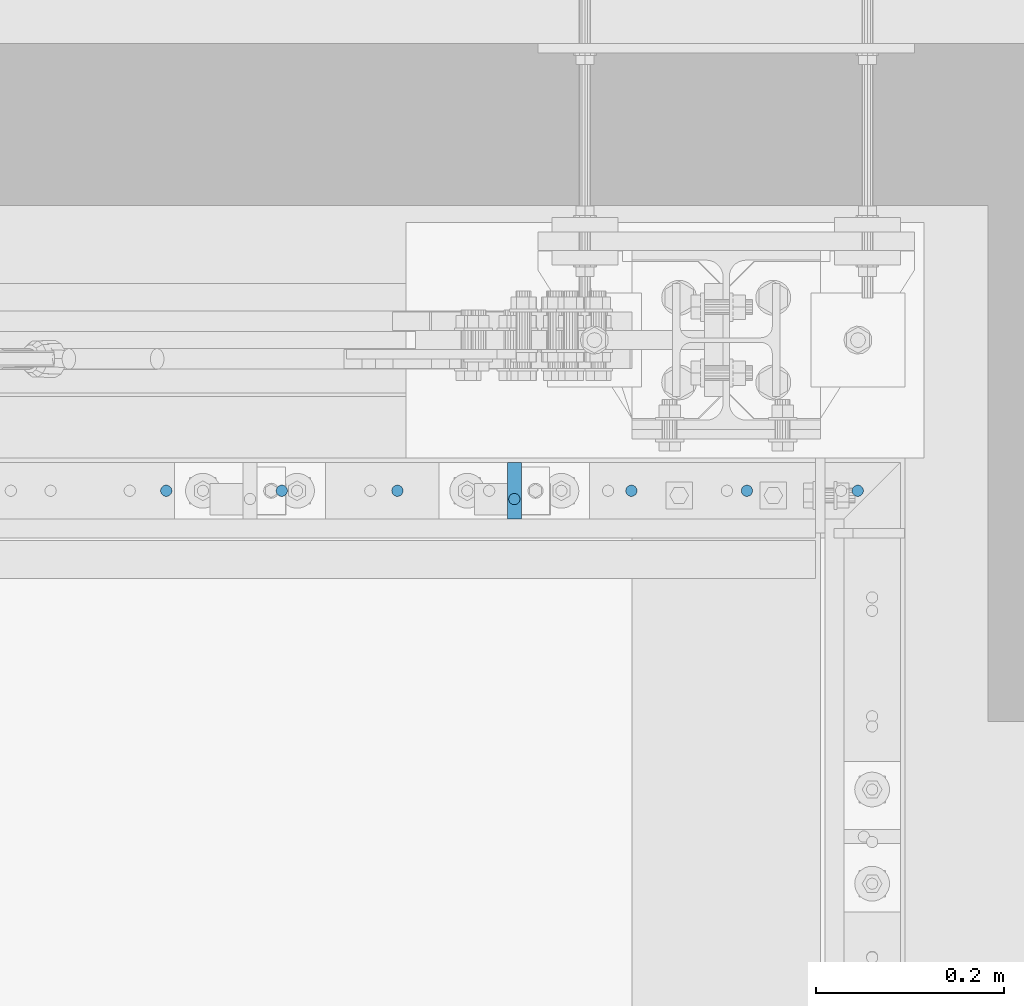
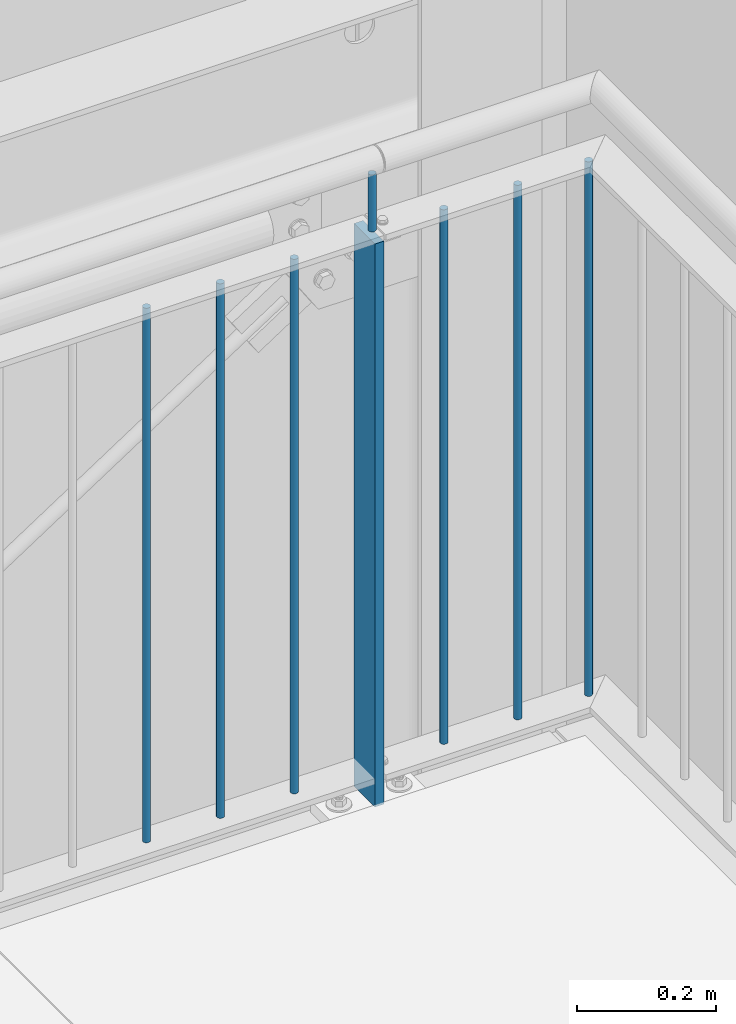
# One storey, part 111 of 821: 8 columns.
"""IFC2X3 building model written with IfcOpenShell, lengths in millimetres."""

from ifc_helpers import new_model, entity, si_unit, converted_unit, frame, origin, origin_with_axes, origin_2d, place, context, project, spatial, rectangle, circle, extrude, clip, halfspace, material, element, save


model = new_model("IFC2X3")

# Units and contexts
model_context = context("Model", 3, precision=1e-09, world=origin_with_axes())
ifc_project = project(units=[si_unit("LENGTHUNIT", "METRE", prefix="MILLI"), si_unit("AREAUNIT", "SQUARE_METRE"), si_unit("VOLUMEUNIT", "CUBIC_METRE"), converted_unit("PLANEANGLEUNIT", "DEGREE", entity("IfcPlaneAngleMeasure", 0.01745329), si_unit("PLANEANGLEUNIT", "RADIAN"), dimensions=[0, 0, 0, 0, 0, 0, 0])], contexts=[model_context])

# Site, building, storey
site_placement = place(None, origin_with_axes())
site = spatial("IfcSite", under=ifc_project, at=site_placement, Name="Cnopf'sche Kinderklinik", CompositionType="ELEMENT")
building_placement = place(site_placement, origin_with_axes())
building = spatial("IfcBuilding", under=site, at=building_placement, Name="Struktur 1", CompositionType="ELEMENT")
storey_placement = place(building_placement, origin_with_axes())
storey = spatial("IfcBuildingStorey", under=building, at=storey_placement, Name="Default Storey", CompositionType="ELEMENT", Elevation=0.0)

# Columns
ifc_material = material(Name="S235JR")
column_1_placement = place(None, frame((8641.713974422, 7356.736971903, 17563.723292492), z_axis=(0.0, 0.0, 1.0), x_axis=(1.0, 0.0, 0.0)))
element("IfcColumn", 1, at=column_1_placement, inside=storey, material=ifc_material, Name="Railing_Post_Landing#4", ObjectType="Railing_Post_Landing#4", context=model_context, shape_type="Clipping", body=[
    clip(clip(extrude(rectangle(XDim=15.0, YDim=60.0, at=origin_2d()), origin(), (0.0, 0.0, -1.0), 1070.646584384), halfspace(frame((-8641.713974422, -7356.736971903, -1019.722292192), z_axis=(0.0, 0.0, 1.0), x_axis=(1.0, 0.0, 0.0)), True)), halfspace(frame((-8641.713974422, -7356.736971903, -30.924292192), z_axis=(0.0, 0.0, -1.0), x_axis=(-1.0, 0.0, 0.0)), True)),
])
column_2_placement = place(None, frame((8271.963926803, 7356.736971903, 17546.285281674), z_axis=(0.0, 0.0, 1.0), x_axis=(1.0, 0.0, 0.0)))
element("IfcColumn", 2, at=column_2_placement, inside=storey, material=ifc_material, Name="Railing_Picket_Landing#25", ObjectType="Railing_Picket_Landing#25", context=model_context, shape_type="Clipping", body=[
    clip(clip(extrude(circle(Radius=6.0, at=origin_2d()), origin(), (0.0, 0.0, -1.0), 965.770562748), halfspace(frame((-8271.963926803, -7356.736971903, -13.486281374), z_axis=(0.0, 0.0, -1.0), x_axis=(-1.0, 0.0, 0.0)), True)), halfspace(frame((-8271.963926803, -7356.736971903, -952.284281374), z_axis=(0.0, 0.0, 1.0), x_axis=(1.0, 0.0, 0.0)), True)),
])
column_3_placement = place(None, frame((8394.713950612, 7356.736971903, 17546.285281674), z_axis=(0.0, 0.0, 1.0), x_axis=(1.0, 0.0, 0.0)))
element("IfcColumn", 3, at=column_3_placement, inside=storey, material=ifc_material, Name="Railing_Picket_Landing#26", ObjectType="Railing_Picket_Landing#26", context=model_context, shape_type="Clipping", body=[
    clip(clip(extrude(circle(Radius=6.0, at=origin_2d()), origin(), (0.0, 0.0, -1.0), 965.770562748), halfspace(frame((-8394.713950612, -7356.736971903, -13.486281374), z_axis=(0.0, 0.0, -1.0), x_axis=(-1.0, 0.0, 0.0)), True)), halfspace(frame((-8394.713950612, -7356.736971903, -952.284281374), z_axis=(0.0, 0.0, 1.0), x_axis=(1.0, 0.0, 0.0)), True)),
])
column_4_placement = place(None, frame((8517.463974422, 7356.736971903, 17546.285281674), z_axis=(0.0, 0.0, 1.0), x_axis=(1.0, 0.0, 0.0)))
element("IfcColumn", 4, at=column_4_placement, inside=storey, material=ifc_material, Name="Railing_Picket_Landing#27", ObjectType="Railing_Picket_Landing#27", context=model_context, shape_type="Clipping", body=[
    clip(clip(extrude(circle(Radius=6.0, at=origin_2d()), origin(), (0.0, 0.0, -1.0), 965.770562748), halfspace(frame((-8517.463974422, -7356.736971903, -13.486281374), z_axis=(0.0, 0.0, -1.0), x_axis=(-1.0, 0.0, 0.0)), True)), halfspace(frame((-8517.463974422, -7356.736971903, -952.284281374), z_axis=(0.0, 0.0, 1.0), x_axis=(1.0, 0.0, 0.0)), True)),
])
column_5_placement = place(None, frame((8765.963974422, 7356.736971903, 17546.285281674), z_axis=(0.0, 0.0, 1.0), x_axis=(1.0, 0.0, 0.0)))
element("IfcColumn", 5, at=column_5_placement, inside=storey, material=ifc_material, Name="Railing_Picket_Landing#28", ObjectType="Railing_Picket_Landing#28", context=model_context, shape_type="Clipping", body=[
    clip(clip(extrude(circle(Radius=6.0, at=origin_2d()), origin(), (0.0, 0.0, -1.0), 965.770562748), halfspace(frame((-8765.963974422, -7356.736971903, -13.486281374), z_axis=(0.0, 0.0, -1.0), x_axis=(-1.0, 0.0, 0.0)), True)), halfspace(frame((-8765.963974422, -7356.736971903, -952.284281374), z_axis=(0.0, 0.0, 1.0), x_axis=(1.0, 0.0, 0.0)), True)),
])
column_6_placement = place(None, frame((8888.713998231, 7356.736971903, 17546.285281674), z_axis=(0.0, 0.0, 1.0), x_axis=(1.0, 0.0, 0.0)))
element("IfcColumn", 6, at=column_6_placement, inside=storey, material=ifc_material, Name="Railing_Picket_Landing#29", ObjectType="Railing_Picket_Landing#29", context=model_context, shape_type="Clipping", body=[
    clip(clip(extrude(circle(Radius=6.0, at=origin_2d()), origin(), (0.0, 0.0, -1.0), 965.770562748), halfspace(frame((-8888.713998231, -7356.736971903, -13.486281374), z_axis=(0.0, 0.0, -1.0), x_axis=(-1.0, 0.0, 0.0)), True)), halfspace(frame((-8888.713998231, -7356.736971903, -952.284281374), z_axis=(0.0, 0.0, 1.0), x_axis=(1.0, 0.0, 0.0)), True)),
])
column_7_placement = place(None, frame((9006.464022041, 7356.736971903, 17546.285281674), z_axis=(0.0, 0.0, 1.0), x_axis=(1.0, 0.0, 0.0)))
element("IfcColumn", 7, at=column_7_placement, inside=storey, material=ifc_material, Name="Railing_Picket_Landing#30", ObjectType="Railing_Picket_Landing#30", context=model_context, shape_type="Clipping", body=[
    clip(clip(extrude(circle(Radius=6.0, at=origin_2d()), origin(), (0.0, 0.0, -1.0), 965.770562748), halfspace(frame((-9006.464022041, -7356.736971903, -13.486281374), z_axis=(0.0, 0.0, -1.0), x_axis=(-1.0, 0.0, 0.0)), True)), halfspace(frame((-9006.464022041, -7356.736971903, -952.284281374), z_axis=(0.0, 0.0, 1.0), x_axis=(1.0, 0.0, 0.0)), True)),
])
column_8_placement = place(None, frame((8641.713974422, 7347.936971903, 17651.285281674), z_axis=(0.0, 0.0, 1.0), x_axis=(0.0, -1.0, 0.0)))
element("IfcColumn", 8, at=column_8_placement, inside=storey, material=ifc_material, Name="Bar#4", ObjectType="Bar#4", context=model_context, shape_type="Clipping", body=[
    clip(clip(extrude(circle(Radius=6.0, at=origin_2d()), origin(), (0.0, 0.0, -1.0), 116.970562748), halfspace(frame((7347.936971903, -8641.713974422, -8.486281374), z_axis=(0.0, 0.0, -1.0), x_axis=(0.0, -1.0, 0.0)), True)), halfspace(frame((7347.936971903, -8641.713974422, -108.484281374), z_axis=(0.0, 0.0, 1.0), x_axis=(0.0, 1.0, 0.0)), True)),
])

save(model, "model.ifc")
